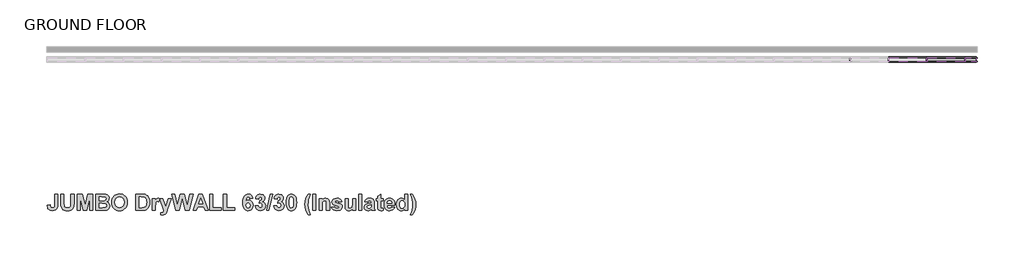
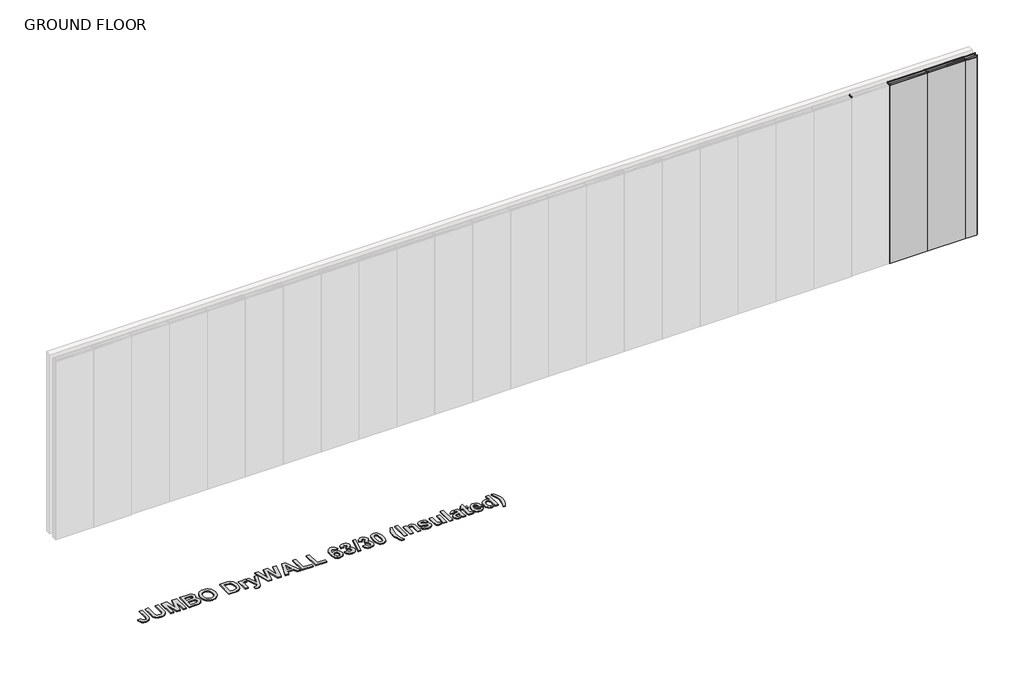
# One storey, part 2 of 2: 10 members, 3 plates, 1 proxy.
"""IFC4 building model written with IfcOpenShell, lengths in millimetres."""

from ifc_helpers import new_model, si_unit, origin, origin_with_axes, place, context, project, spatial, polyline, outline, extrude, transform, mapped, element, save
from components import rectangular_mullion_stud_mullion_63mm_b2ef130e, rectangular_mullion_stud_mullion_63mm_af775e70, rectangular_mullion_stud_mullion_63mm_c22ba0a2, rectangular_mullion_stud_mullion_63mm_ab3eab4e, rectangular_mullion_stud_mullion_63mm_06861ceb, rectangular_mullion_stud_mullion_63mm_08592bac, plate_2_layer_drywall_panels_2_layer_12mm_drywall_panels_e6e5b326, plate_2_layer_drywall_panels_2_layer_12mm_drywall_panels_b7f979b4

model = new_model("IFC4")

# Units and contexts
model_context = context("Model", 3, world=origin())
ifc_project = project(units=[si_unit("LENGTHUNIT", "METRE", prefix="MILLI")], contexts=[model_context])

# Site, building, storey
site = spatial("IfcSite", under=ifc_project)
building = spatial("IfcBuilding", under=site)
storey = spatial("IfcBuildingStorey", under=building, Name="GROUND FLOOR", Elevation=0.0)

# Proxy
placement = place(None, origin())
element("IfcBuildingElementProxy", 1, Name="600mm Arial", ObjectType="600mm Arial", at=placement, inside=storey, context=model_context, shape_type="SweptSolid", body=[
    extrude(outline(polyline([(61762.9500241, -21369.743976), (61811.5338051, -21369.743976), (61811.5338051, -21530.994051), (61810.1104521, -21558.9866592), (61805.8403932, -21579.7043522), (61795.149431, -21599.7261838), (61778.2589759, -21615.3830664), (61755.0741377, -21625.4888724), (61725.5000263, -21628.8574744), (61691.5293357, -21623.4566406), (61677.8651473, -21616.7055985), (61666.4150635, -21607.2541395), (61657.3530497, -21595.1892463), (61650.8530712, -21580.5979016), (61645.5392201, -21543.8358577), (61694.1230011, -21539.7872093), (61696.3529207, -21558.417318), (61701.1448757, -21570.6581534), (61712.5633294, -21580.9062947), (61728.726293, -21584.3223418), (61744.7073837, -21581.8710117), (61755.200658, -21574.5170215), (61761.0126826, -21559.4611102), (61762.9500241, -21533.9040171), (61762.9500241, -21369.743976)])), origin_with_axes(), (0.0, 0.0, 1.0), 15.0),
    extrude(outline(polyline([(61860.117586, -21369.743976), (61908.701367, -21369.743976), (61908.701367, -21507.3347619), (61910.7889513, -21549.8455702), (61916.8777389, -21563.8814119), (61927.9324469, -21574.8649522), (61943.9530752, -21581.9579944), (61964.9396238, -21584.3223418), (61985.9024499, -21582.0924222), (62000.9662687, -21575.4026633), (62010.6687913, -21565.4629151), (62015.547729, -21553.4830277), (62018.0148741, -21510.307988), (62018.0148741, -21369.743976), (62066.598655, -21369.743976), (62066.598655, -21503.539154), (62062.3602262, -21568.3807887), (62056.3346987, -21585.8326775), (62046.7349738, -21600.3587851), (62033.4266236, -21612.085632), (62016.2752205, -21621.1397383), (61994.2844173, -21626.9280404), (61966.457867, -21628.8574744), (61933.8630842, -21626.754075), (61910.2196101, -21620.4438769), (61893.0602995, -21610.7650768), (61879.9180071, -21598.5558714), (61870.682028, -21584.7493477), (61865.2416567, -21570.2785926), (61861.3986037, -21543.1716263), (61860.117586, -21505.6267383), (61860.117586, -21369.743976)])), origin_with_axes(), (0.0, 0.0, 1.0), 15.0),
    extrude(outline(polyline([(62115.182436, -21624.808826), (62115.182436, -21369.743976), (62198.432769, -21369.743976), (62238.6662126, -21543.7093374), (62278.8996562, -21369.743976), (62362.1499892, -21369.743976), (62362.1499892, -21624.808826), (62313.5662082, -21624.808826), (62311.541884, -21424.0211687), (62267.1332717, -21624.808826), (62210.2624136, -21624.808826), (62165.7905412, -21424.0211687), (62163.7662169, -21624.808826), (62115.182436, -21624.808826)])), origin_with_axes(), (0.0, 0.0, 1.0), 15.0),
    extrude(outline(polyline([(62410.7337701, -21369.743976), (62515.4292877, -21369.743976), (62561.7673339, -21372.2743812), (62589.0957107, -21382.8704532), (62600.1425112, -21392.2645828), (62609.1808025, -21404.3156378), (62615.20633, -21418.5096298), (62617.2148391, -21434.3325702), (62614.8188617, -21451.570956), (62607.6309292, -21467.3543588), (62596.3310883, -21480.5282812), (62581.5993851, -21489.9382257), (62600.2294939, -21499.0793147), (62613.9885724, -21512.9649136), (62622.4812451, -21530.6619353), (62625.312136, -21551.2372931), (62623.2799042, -21568.3254361), (62617.1832091, -21584.9233131), (62607.5676691, -21599.6312936), (62594.9789029, -21611.0497474), (62579.2666678, -21618.9493563), (62560.2807208, -21623.1008024), (62497.9062312, -21624.808826), (62410.7337701, -21624.808826), (62410.7337701, -21369.743976)]), holes=[polyline([(62459.3175511, -21414.2791085), (62459.3175511, -21470.9601863), (62496.3879881, -21470.9601863), (62537.5070735, -21470.1378046), (62550.4516779, -21467.1803934), (62560.3123509, -21461.3446463), (62566.5513814, -21452.9152338), (62568.6310582, -21442.1768265), (62566.836052, -21431.9049626), (62561.4510333, -21423.7364982), (62552.5392623, -21418.0193638), (62540.163999, -21415.1014902), (62491.8332586, -21414.2791085), (62459.3175511, -21414.2791085)]), polyline([(62459.3175511, -21515.4953188), (62459.3175511, -21580.2736934), (62510.6847778, -21580.2736934), (62548.7673769, -21578.7554503), (62560.0118653, -21575.3631257), (62568.9473589, -21569.1082802), (62574.783106, -21560.117434), (62576.728355, -21548.5171074), (62575.2259269, -21538.4587465), (62570.7186425, -21530.045149), (62553.3853665, -21518.974626), (62504.1689843, -21515.4953188), (62459.3175511, -21515.4953188)])]), origin_with_axes(), (0.0, 0.0, 1.0), 15.0),
    extrude(outline(polyline([(62657.7013233, -21498.8579042), (62660.5638442, -21463.0842999), (62669.1514071, -21433.5734486), (62679.2493055, -21415.1410278), (62692.4627655, -21398.6854861), (62707.9377752, -21385.2189856), (62724.8203227, -21375.7536884), (62750.0294851, -21368.2099178), (62778.844475, -21365.6953275), (62805.1369671, -21367.8758252), (62828.6618285, -21374.4173182), (62849.4190591, -21385.3198065), (62867.408659, -21400.58329), (62881.9387205, -21419.7293642), (62892.3173358, -21442.2796242), (62898.544505, -21468.23407), (62900.620228, -21497.5927016), (62898.56032, -21526.7516685), (62892.3805959, -21552.5499408), (62882.0810558, -21574.9875187), (62867.6616995, -21594.0644021), (62849.7907124, -21609.2863712), (62829.1362795, -21620.1592063), (62805.6984008, -21626.6829073), (62779.4770763, -21628.8574744), (62752.9789887, -21626.6927917), (62729.3434221, -21620.1987439), (62708.5703765, -21609.3753308), (62690.6598518, -21594.2225524), (62676.2404955, -21575.2741661), (62665.9409554, -21553.0639294), (62659.7612313, -21527.5918421), (62657.7013233, -21498.8579042)]), holes=[polyline([(62706.2851042, -21497.0866206), (62711.4487125, -21534.837104), (62717.9032227, -21549.8099864), (62726.9395371, -21562.1812958), (62750.3853234, -21578.7870803), (62779.4138162, -21584.3223418), (62808.3790489, -21578.8266179), (62831.6350547, -21562.3394461), (62840.5606639, -21549.9740673), (62846.936099, -21534.8608266), (62852.0364471, -21496.3907591), (62847.0705268, -21458.4979404), (62840.8631264, -21443.6792546), (62832.1727658, -21431.6123845), (62809.0511878, -21415.5759412), (62779.4138162, -21410.2304601), (62749.7131845, -21415.6392013), (62726.401826, -21431.865425), (62717.6007602, -21444.0548616), (62711.3142847, -21458.9882064), (62706.2851042, -21497.0866206)])]), origin_with_axes(), (0.0, 0.0, 1.0), 15.0),
    extrude(outline(polyline([(63038.2742741, -21369.743976), (63132.7216503, -21369.743976), (63160.8724088, -21370.9617335), (63181.4319515, -21374.6150061), (63202.339425, -21383.8114477), (63220.0206317, -21398.1161449), (63234.1671786, -21416.8727739), (63244.4706725, -21439.4250107), (63250.7571481, -21466.729665), (63252.8526399, -21499.7435461), (63250.8915758, -21529.0329869), (63245.0083836, -21554.0207389), (63233.3368894, -21579.1982712), (63217.5534866, -21599.0619525), (63201.7700838, -21610.6701866), (63181.2421711, -21619.4317148), (63161.2677846, -21623.4645482), (63135.5050961, -21624.808826), (63038.2742741, -21624.808826), (63038.2742741, -21369.743976)]), holes=[polyline([(63086.858055, -21414.2791085), (63086.858055, -21580.2736934), (63128.230181, -21580.2736934), (63161.7580506, -21577.8698084), (63184.1205071, -21567.4635168), (63192.1940814, -21557.7293641), (63198.6387073, -21543.2665165), (63202.861321, -21523.3712052), (63204.268859, -21497.3396611), (63202.861321, -21471.6718628), (63198.6387073, -21452.7412684), (63191.8935957, -21438.8872996), (63182.9185646, -21428.4493779), (63171.4605733, -21421.1428328), (63157.2665813, -21416.6829935), (63111.7825468, -21414.2791085), (63086.858055, -21414.2791085)])]), origin_with_axes(), (0.0, 0.0, 1.0), 15.0),
    extrude(outline(polyline([(63341.922905, -21624.808826), (63293.339124, -21624.808826), (63293.339124, -21438.570999), (63341.922905, -21438.570999), (63341.922905, -21464.5076529), (63361.3437653, -21440.3106526), (63380.9544061, -21434.5223506), (63396.1210226, -21437.0843859), (63410.749928, -21444.7704919), (63396.5796586, -21491.0136479), (63384.8765342, -21485.0830106), (63374.0590518, -21483.1061315), (63356.9471862, -21488.641393), (63350.7002482, -21496.3986666), (63345.9399233, -21508.5999645), (63341.922905, -21569.0766501), (63341.922905, -21624.808826)])), origin_with_axes(), (0.0, 0.0, 1.0), 15.0),
    extrude(outline(polyline([(63410.749928, -21438.570999), (63459.333709, -21438.570999), (63501.8445173, -21570.4051129), (63544.3553256, -21438.570999), (63592.9391066, -21438.570999), (63529.9320156, -21617.0278298), (63518.2288913, -21650.1761387), (63506.6839173, -21673.7721677), (63494.0635211, -21686.9935352), (63476.5088346, -21694.8694215), (63453.0076958, -21697.6844974), (63426.9445217, -21694.9010516), (63422.8958732, -21658.9060368), (63442.1902133, -21661.2466617), (63455.9571994, -21658.6767188), (63465.628092, -21650.9668903), (63477.2995863, -21624.808826), (63410.749928, -21438.570999)])), origin_with_axes(), (0.0, 0.0, 1.0), 15.0),
    extrude(outline(polyline([(64171.8958296, -21624.808826), (64120.8449035, -21624.808826), (64100.8547019, -21568.1277482), (64004.5095218, -21568.1277482), (63984.7723607, -21624.808826), (63933.0255732, -21624.808826), (64026.1444867, -21369.743976), (64077.8912742, -21369.743976), (64171.8958296, -21624.808826)]), holes=[polyline([(64085.2927096, -21523.5926156), (64052.4607014, -21430.4737021), (64020.0715141, -21523.5926156), (64085.2927096, -21523.5926156)])]), origin_with_axes(), (0.0, 0.0, 1.0), 15.0),
    extrude(outline(polyline([(63661.1967884, -21624.808826), (63596.987755, -21369.743976), (63646.8367386, -21369.743976), (63688.0823443, -21544.9745401), (63732.4276964, -21369.743976), (63797.7754122, -21369.743976), (63841.9309839, -21547.8845061), (63883.1765896, -21369.743976), (63933.0255732, -21369.743976), (63869.7654418, -21624.808826), (63812.2619823, -21624.808826), (63765.0066641, -21434.1427898), (63716.8024439, -21624.808826), (63661.1967884, -21624.808826)])), origin_with_axes(), (0.0, 0.0, 1.0), 15.0),
    extrude(outline(polyline([(64196.18772, -21624.808826), (64196.18772, -21369.743976), (64244.771501, -21369.743976), (64244.771501, -21580.2736934), (64374.3282502, -21580.2736934), (64374.3282502, -21624.808826), (64196.18772, -21624.808826)])), origin_with_axes(), (0.0, 0.0, 1.0), 15.0),
    extrude(outline(polyline([(64410.7660859, -21624.808826), (64410.7660859, -21369.743976), (64459.3498668, -21369.743976), (64459.3498668, -21580.2736934), (64588.906616, -21580.2736934), (64588.906616, -21624.808826), (64410.7660859, -21624.808826)])), origin_with_axes(), (0.0, 0.0, 1.0), 15.0),
    extrude(outline(polyline([(64872.3120049, -21437.4323166), (64823.728224, -21442.6196474), (64820.7549978, -21430.0229737), (64815.1248461, -21421.2060929), (64807.1224395, -21416.0108546), (64797.0324485, -21414.2791085), (64783.4315202, -21417.639803), (64772.1079567, -21427.7218864), (64763.8050645, -21448.5581922), (64759.26615, -21484.1815537), (64779.2879816, -21468.1925555), (64803.6747623, -21462.8628894), (64831.5013126, -21468.5563013), (64855.010359, -21485.6365368), (64871.0230797, -21511.715526), (64876.3606533, -21544.4051989), (64870.904467, -21578.8424329), (64864.0842341, -21593.232136), (64854.535908, -21605.7358963), (64842.8446449, -21615.8515867), (64829.5956012, -21623.0770799), (64798.4241714, -21628.8574744), (64780.8932075, -21626.9913005), (64764.9911919, -21621.3927789), (64750.7181248, -21612.0619095), (64738.074006, -21598.9986923), (64727.723067, -21581.6851851), (64720.3295391, -21559.6034455), (64715.8934224, -21532.7534734), (64714.4147168, -21501.135269), (64715.9586594, -21468.6828215), (64720.5904872, -21441.1014042), (64728.3102001, -21418.391017), (64739.1177982, -21400.55166), (64752.3925414, -21387.0732982), (64767.5136897, -21377.445897), (64784.4812431, -21371.6694562), (64803.2952015, -21369.743976), (64828.6150691, -21374.077295), (64849.1587968, -21387.077252), (64864.0249277, -21408.3326561), (64872.3120049, -21437.4323166)]), holes=[polyline([(64762.9984978, -21543.3297766), (64765.6237932, -21560.7500353), (64773.4996796, -21573.6630097), (64784.744168, -21581.6575088), (64797.4752694, -21584.3223418), (64809.3681741, -21582.1398673), (64819.1102344, -21575.5924437), (64825.6102129, -21564.0632847), (64827.7768724, -21546.9356041), (64825.444155, -21529.1832298), (64818.446003, -21516.9186718), (64807.9527287, -21509.7781844), (64795.1346446, -21507.398022), (64782.6961212, -21509.6753867), (64772.3293672, -21516.5074809), (64765.3312151, -21527.7677843), (64762.9984978, -21543.3297766)])]), origin_with_axes(), (0.0, 0.0, 1.0), 15.0),
    extrude(outline(polyline([(64908.7498406, -21553.5146578), (64957.3336216, -21547.8845061), (64961.0817844, -21563.5097586), (64968.2776243, -21574.9598424), (64978.1303898, -21581.981717), (64989.8493292, -21584.3223418), (65002.4222803, -21581.6416938), (65012.8127569, -21573.5997495), (65019.7871864, -21561.0188909), (65022.1119962, -21544.7214995), (65019.9848743, -21529.3018425), (65013.6035085, -21517.4563829), (65004.1540264, -21509.9126122), (64992.8225553, -21507.398022), (64973.5282152, -21511.0038495), (64977.766644, -21470.9601863), (64991.5968903, -21469.2205327), (65001.7106038, -21462.9894097), (65007.9021892, -21453.1208292), (65009.966051, -21440.4688029), (65008.4240852, -21429.7224881), (65003.7981881, -21421.3958733), (64996.6102557, -21416.0582997), (64987.382184, -21414.2791085), (64977.995962, -21416.3429703), (64970.0805381, -21422.5345557), (64964.3159586, -21432.6957143), (64961.38227, -21446.6682958), (64912.7984891, -21439.3933807), (64918.3574731, -21417.655618), (64926.1780069, -21400.7730704), (64936.9005991, -21387.8600961), (64951.1657588, -21378.0310532), (64968.1590116, -21371.8157453), (64987.0658834, -21369.743976), (65017.7154171, -21375.4848329), (65030.5018711, -21382.6609041), (65041.5961167, -21392.7074037), (65054.3114031, -21412.7292353), (65058.5498319, -21435.218212), (65056.2764209, -21451.1637189), (65049.456188, -21465.4091097), (65038.0891331, -21477.9543846), (65022.1752563, -21488.7995433), (65042.0389376, -21496.3512215), (65057.4744097, -21509.6437567), (65067.3904353, -21527.5068363), (65070.6957771, -21548.770148), (65064.8363075, -21579.5382944), (65047.2578984, -21605.4195957), (65034.821352, -21615.6736676), (65020.9495913, -21622.9980047), (64988.9004272, -21628.8574744), (64958.6383618, -21623.646421), (64934.0222632, -21608.0132611), (64916.8075999, -21583.9665036), (64908.7498406, -21553.5146578)])), origin_with_axes(), (0.0, 0.0, 1.0), 15.0),
    extrude(outline(polyline([(65086.0047289, -21624.808826), (65146.7344551, -21369.743976), (65184.0579327, -21369.743976), (65123.3282065, -21624.808826), (65086.0047289, -21624.808826)])), origin_with_axes(), (0.0, 0.0, 1.0), 15.0),
    extrude(outline(polyline([(65200.2525263, -21553.5146578), (65248.8363073, -21547.8845061), (65252.5844701, -21563.5097586), (65259.78031, -21574.9598424), (65269.6330755, -21581.981717), (65281.3520149, -21584.3223418), (65293.924966, -21581.6416938), (65304.3154426, -21573.5997495), (65311.2898721, -21561.0188909), (65313.6146819, -21544.7214995), (65311.48756, -21529.3018425), (65305.1061942, -21517.4563829), (65295.6567121, -21509.9126122), (65284.325241, -21507.398022), (65265.0309009, -21511.0038495), (65269.2693297, -21470.9601863), (65283.099576, -21469.2205327), (65293.2132895, -21462.9894097), (65299.4048749, -21453.1208292), (65301.4687367, -21440.4688029), (65299.9267709, -21429.7224881), (65295.3008738, -21421.3958733), (65288.1129414, -21416.0582997), (65278.8848697, -21414.2791085), (65269.4986477, -21416.3429703), (65261.5832238, -21422.5345557), (65255.8186443, -21432.6957143), (65252.8849557, -21446.6682958), (65204.3011748, -21439.3933807), (65209.8601588, -21417.655618), (65217.6806926, -21400.7730704), (65228.4032848, -21387.8600961), (65242.6684445, -21378.0310532), (65259.6616973, -21371.8157453), (65278.5685691, -21369.743976), (65309.2181028, -21375.4848329), (65322.0045568, -21382.6609041), (65333.0988024, -21392.7074037), (65345.8140888, -21412.7292353), (65350.0525176, -21435.218212), (65347.7791066, -21451.1637189), (65340.9588737, -21465.4091097), (65329.5918188, -21477.9543846), (65313.677942, -21488.7995433), (65333.5416233, -21496.3512215), (65348.9770954, -21509.6437567), (65358.893121, -21527.5068363), (65362.1984628, -21548.770148), (65356.3389932, -21579.5382944), (65338.7605841, -21605.4195957), (65326.3240377, -21615.6736676), (65312.452277, -21622.9980047), (65280.4031129, -21628.8574744), (65250.1410475, -21623.646421), (65225.5249489, -21608.0132611), (65208.3102856, -21583.9665036), (65200.2525263, -21553.5146578)])), origin_with_axes(), (0.0, 0.0, 1.0), 15.0),
    extrude(outline(polyline([(65475.5606184, -21369.743976), (65492.6922527, -21371.3887394), (65507.8391005, -21376.3230296), (65521.0011616, -21384.5468467), (65532.178436, -21396.0601906), (65542.8338144, -21414.1881721), (65550.444799, -21437.4481316), (65555.0113897, -21465.8400694), (65556.5335866, -21499.3639853), (65555.0034822, -21532.8562711), (65550.4131689, -21561.2798389), (65542.7626468, -21584.6346887), (65532.0519158, -21602.9208205), (65520.9299939, -21614.2681065), (65507.8074704, -21622.3733109), (65492.6843452, -21627.2364335), (65475.5606184, -21628.8574744), (65458.2530418, -21627.0782832), (65442.7048876, -21621.7407096), (65428.9161558, -21612.8447536), (65416.8868465, -21600.3904152), (65407.1309481, -21583.3694861), (65400.1624492, -21560.7737579), (65395.9813499, -21532.6032306), (65394.5876501, -21498.8579042), (65396.1177546, -21465.5316762), (65400.7080679, -21437.2267212), (65408.35859, -21413.9430391), (65419.069321, -21395.6806299), (65430.1912429, -21384.3333438), (65443.3137664, -21376.2281394), (65458.4368916, -21371.3650168), (65475.5606184, -21369.743976)]), holes=[polyline([(65475.5606184, -21414.2791085), (65459.3660247, -21419.6245896), (65453.0400116, -21427.0971926), (65448.3587619, -21438.8240395), (65444.4682638, -21462.9735947), (65443.1714311, -21499.3639853), (65444.3259285, -21535.2720174), (65447.7894207, -21557.8479768), (65453.016289, -21571.1009744), (65459.4609149, -21579.0401208), (65475.5606184, -21584.3223418), (65491.755212, -21578.9768607), (65498.0812252, -21571.5042577), (65502.7624749, -21559.7774108), (65506.652973, -21535.7543759), (65507.9498057, -21499.3639853), (65506.7953083, -21463.4954908), (65503.3318161, -21440.9116238), (65498.1049477, -21427.6190887), (65491.6603218, -21419.6245896), (65475.5606184, -21414.2791085)])]), origin_with_axes(), (0.0, 0.0, 1.0), 15.0),
    extrude(outline(polyline([(65771.1119525, -21693.635849), (65738.7227652, -21693.635849), (65716.0519156, -21653.963839), (65699.5331138, -21612.7577709), (65689.4510303, -21571.4568126), (65686.0903358, -21531.5001321), (65690.2022444, -21484.1024786), (65702.53797, -21439.3301206), (65718.7325637, -21403.0504352), (65738.7227652, -21369.743976), (65771.1119525, -21369.743976), (65753.5493585, -21416.9834791), (65742.486743, -21456.6001364), (65736.6272734, -21493.4807931), (65734.6741168, -21532.5122942), (65739.3553665, -21589.1617419), (65752.1971732, -21644.2296863), (65771.1119525, -21693.635849)])), origin_with_axes(), (0.0, 0.0, 1.0), 15.0),
    extrude(outline(polyline([(65811.5984366, -21624.808826), (65811.5984366, -21369.743976), (65860.1822176, -21369.743976), (65860.1822176, -21624.808826), (65811.5984366, -21624.808826)])), origin_with_axes(), (0.0, 0.0, 1.0), 15.0),
    extrude(outline(polyline([(66074.7605834, -21624.808826), (66026.1768025, -21624.808826), (66026.1768025, -21529.0962471), (66023.1403162, -21489.7484453), (66013.2084755, -21475.8944765), (65996.6975812, -21470.9601863), (65984.9391043, -21472.7235624), (65974.461645, -21478.0136909), (65966.1745678, -21486.221693), (65960.987237, -21496.7386898), (65957.3497795, -21539.8504694), (65957.3497795, -21624.808826), (65908.7659985, -21624.808826), (65908.7659985, -21438.570999), (65957.3497795, -21438.570999), (65957.3497795, -21465.3932947), (65969.6420138, -21451.8872566), (65983.4287687, -21442.2400866), (65998.7100442, -21436.4517846), (66015.4858403, -21434.5223506), (66043.6998589, -21440.4055428), (66063.0574591, -21455.3981939), (66072.1985481, -21476.0526269), (66074.7605834, -21509.1693057), (66074.7605834, -21624.808826)])), origin_with_axes(), (0.0, 0.0, 1.0), 15.0),
    extrude(outline(polyline([(66103.1011223, -21572.1763966), (66151.6849033, -21564.0790998), (66156.3108004, -21576.3199352), (66164.1155191, -21585.2079837), (66175.367915, -21590.6167249), (66190.3368436, -21592.4196387), (66206.5788823, -21590.6958001), (66218.2345616, -21585.5242843), (66222.9790714, -21579.8941326), (66224.5605747, -21572.6192175), (66221.2077877, -21563.5097586), (66205.3294948, -21557.1204853), (66158.4062923, -21544.6898695), (66132.5170835, -21533.3346759), (66116.5280852, -21515.3529835), (66111.1984192, -21491.519729), (66115.7689637, -21469.3312379), (66129.4805971, -21450.9699847), (66152.8077706, -21438.6342591), (66186.2249351, -21434.5223506), (66218.0922263, -21437.8435075), (66240.565388, -21447.8069782), (66255.5738542, -21464.2862424), (66265.0470588, -21487.1547799), (66216.4632779, -21495.2520767), (66212.8890805, -21484.8616002), (66207.1007784, -21477.2229393), (66198.7504411, -21472.5258745), (66187.4901377, -21470.9601863), (66173.6519839, -21472.288649), (66164.4001897, -21476.2740373), (66159.7822001, -21486.1426178), (66164.4001897, -21494.9357761), (66207.385449, -21508.5367044), (66238.6122314, -21518.3578398), (66258.7210457, -21530.2349294), (66269.5385282, -21545.907627), (66273.1443557, -21566.7360253), (66267.9174873, -21590.434852), (66252.2368822, -21610.5436663), (66240.5278273, -21618.5559573), (66226.3081358, -21624.2790223), (66190.3368436, -21628.8574744), (66157.0224769, -21625.0460514), (66131.4732913, -21613.6117827), (66113.5469515, -21595.6300903), (66103.1011223, -21572.1763966)])), origin_with_axes(), (0.0, 0.0, 1.0), 15.0),
    extrude(outline(polyline([(66435.0902922, -21624.808826), (66435.0902922, -21597.4804492), (66423.9011564, -21610.5357588), (66409.6913494, -21620.4755069), (66393.5204783, -21626.7619825), (66376.4481503, -21628.8574744), (66359.5735102, -21626.8015201), (66344.5017839, -21620.6336573), (66332.2925786, -21610.7413542), (66324.0055013, -21597.5120792), (66319.2609915, -21579.7597048), (66317.6794882, -21556.2981036), (66317.6794882, -21438.570999), (66366.2632691, -21438.570999), (66366.2632691, -21524.6680379), (66368.8885646, -21573.0936685), (66378.5041046, -21587.2006778), (66396.2485715, -21592.4196387), (66407.8805281, -21590.679985), (66418.2314671, -21585.4610242), (66426.4078391, -21577.6563055), (66431.5160947, -21568.1593782), (66435.0902922, -21517.5829032), (66435.0902922, -21438.570999), (66483.6740731, -21438.570999), (66483.6740731, -21624.808826), (66435.0902922, -21624.808826)])), origin_with_axes(), (0.0, 0.0, 1.0), 15.0),
    extrude(outline(polyline([(66532.2578541, -21624.808826), (66532.2578541, -21369.743976), (66580.841635, -21369.743976), (66580.841635, -21624.808826), (66532.2578541, -21624.808826)])), origin_with_axes(), (0.0, 0.0, 1.0), 15.0),
    extrude(outline(polyline([(66669.9119001, -21495.2520767), (66625.3767675, -21487.1547799), (66635.0318451, -21463.8117914), (66649.8268084, -21447.4274174), (66671.3906057, -21437.7486173), (66701.3521854, -21434.5223506), (66728.4433367, -21436.4755071), (66747.5953415, -21442.3349768), (66760.5320384, -21451.1913952), (66768.9772659, -21462.1353979), (66773.6268856, -21479.1444658), (66775.1767588, -21506.1960795), (66775.1767588, -21563.6362788), (66777.7387941, -21599.821074), (66787.3227041, -21624.808826), (66738.7389231, -21624.808826), (66734.1841936, -21609.3733539), (66732.4761701, -21603.2371211), (66706.4762561, -21622.436571), (66692.1636513, -21627.2522485), (66676.9337747, -21628.8574744), (66652.1595257, -21624.9590688), (66633.2526539, -21613.263852), (66621.2727665, -21595.6221828), (66617.2794707, -21573.8844201), (66619.0586619, -21558.9866592), (66624.3962355, -21545.7969218), (66632.9442608, -21534.9003641), (66644.354807, -21526.8821425), (66681.3619839, -21515.4320587), (66726.5929779, -21503.3493736), (66726.5929779, -21498.2253029), (66725.0826422, -21485.6049067), (66720.5516353, -21477.2229393), (66711.8454597, -21472.5258745), (66697.8096181, -21470.9601863), (66687.7354421, -21472.3044641), (66680.1600414, -21476.3372974), (66669.9119001, -21495.2520767)]), holes=[polyline([(66726.5929779, -21539.7872093), (66699.2013409, -21546.5244133), (66674.6564099, -21554.2105193), (66668.0615412, -21561.1216886), (66665.8632517, -21569.7092515), (66667.6266278, -21578.3205369), (66672.9167563, -21585.6824347), (66680.9270705, -21590.7353377), (66690.8510036, -21592.4196387), (66702.7597233, -21590.4585746), (66714.0674718, -21584.5753824), (66724.8216942, -21570.0255521), (66726.5929779, -21548.5803676), (66726.5929779, -21539.7872093)])]), origin_with_axes(), (0.0, 0.0, 1.0), 15.0),
    extrude(outline(polyline([(66912.8308048, -21438.570999), (66912.8308048, -21475.0088347), (66876.3929691, -21475.0088347), (66876.3929691, -21554.9063807), (66877.5000214, -21583.1520294), (66882.5292019, -21589.7943432), (66892.0814817, -21592.4196387), (66914.855129, -21587.7383889), (66916.8794533, -21622.2784207), (66898.1386393, -21627.2127109), (66877.0888306, -21628.8574744), (66852.5438996, -21624.3027449), (66836.5074563, -21612.5363605), (66829.3906915, -21592.9889798), (66827.8091882, -21557.6265664), (66827.8091882, -21475.0088347), (66803.5172977, -21475.0088347), (66803.5172977, -21438.570999), (66827.8091882, -21438.570999), (66827.8091882, -21402.1331633), (66876.3929691, -21373.7926244), (66876.3929691, -21438.570999), (66912.8308048, -21438.570999)])), origin_with_axes(), (0.0, 0.0, 1.0), 15.0),
    extrude(outline(polyline([(67046.4362025, -21568.1277482), (67095.0199834, -21576.225045), (67083.1903388, -21598.8958946), (67066.0468432, -21615.4146964), (67043.7634619, -21625.4967799), (67016.5141603, -21628.8574744), (66994.5114958, -21626.8766415), (66975.5690402, -21620.9341429), (66959.6867934, -21611.0299786), (66946.8647556, -21597.1641485), (66933.4852378, -21568.4598639), (66929.0253985, -21533.0816354), (66930.5041041, -21511.241075), (66934.9402208, -21491.8992898), (66942.3337486, -21475.0562798), (66952.6846877, -21460.712045), (66965.2971764, -21449.2540537), (66979.4753533, -21441.0697742), (66995.2192185, -21436.1592065), (67012.528772, -21434.5223506), (67031.7638057, -21436.2026978), (67048.8559025, -21441.2437395), (67063.8050623, -21449.6454757), (67076.6112852, -21461.4079064), (67086.8159351, -21476.6417368), (67093.9603762, -21495.4576722), (67098.0446084, -21517.8557125), (67099.0686318, -21543.8358577), (66977.6091794, -21543.8358577), (66980.7247409, -21564.3005102), (66989.0592632, -21579.6410921), (67001.3475438, -21589.225002), (67016.3243799, -21592.4196387), (67026.5250761, -21590.9804707), (67034.9861187, -21586.6629667), (67041.6442475, -21579.1508261), (67046.4362025, -21568.1277482)]), holes=[polyline([(67050.4848509, -21515.4953188), (67047.5274397, -21496.2879614), (67039.6673684, -21482.3153799), (67028.2489147, -21473.7989847), (67014.6163563, -21470.9601863), (67000.2246764, -21473.9492275), (66988.5531822, -21482.9163511), (66980.8987063, -21497.0708055), (66978.4315611, -21515.4953188), (67050.4848509, -21515.4953188)])]), origin_with_axes(), (0.0, 0.0, 1.0), 15.0),
    extrude(outline(polyline([(67301.5010524, -21624.808826), (67252.9172715, -21624.808826), (67252.9172715, -21597.9865302), (67241.0639044, -21611.611181), (67227.2652882, -21621.2346285), (67212.4386949, -21626.9517629), (67197.5013963, -21628.8574744), (67182.7716701, -21627.244341), (67169.1371349, -21622.404941), (67156.5977907, -21614.3392742), (67145.1536376, -21603.0473407), (67135.6191496, -21588.86521), (67128.8088011, -21572.1289515), (67123.3605223, -21530.994051), (67128.8008936, -21489.4005146), (67135.6013577, -21472.8500827), (67145.1220075, -21459.1305417), (67156.7223341, -21448.3644581), (67169.7618287, -21440.6743983), (67184.2404913, -21436.0603625), (67200.1583219, -21434.5223506), (67214.890025, -21436.1157151), (67228.593751, -21440.8958088), (67252.9172715, -21460.0161835), (67252.9172715, -21369.743976), (67301.5010524, -21369.743976), (67301.5010524, -21624.808826)]), holes=[polyline([(67171.9443032, -21528.1473451), (67173.9686274, -21554.59008), (67180.0416001, -21572.5559574), (67194.0695342, -21587.4537183), (67212.747088, -21592.4196387), (67228.2458202, -21588.6951984), (67241.2141472, -21577.5218777), (67249.9914904, -21558.9471216), (67252.9172715, -21533.0183752), (67250.0784731, -21504.6224837), (67241.5620779, -21485.4783864), (67228.6016585, -21474.5897363), (67212.4307874, -21470.9601863), (67196.6157545, -21474.5501987), (67183.5841674, -21485.3202361), (67174.8542693, -21503.2070383), (67171.9443032, -21528.1473451)])]), origin_with_axes(), (0.0, 0.0, 1.0), 15.0),
    extrude(outline(polyline([(67341.9875366, -21693.635849), (67359.985044, -21647.6457334), (67369.6638441, -21610.7334467), (67376.2745278, -21571.0377142), (67378.4253723, -21532.5122942), (67376.4801232, -21493.4807931), (67370.6443761, -21456.6001364), (67359.5896681, -21416.9834791), (67341.9875366, -21369.743976), (67374.3767239, -21369.743976), (67396.5731225, -21407.0832685), (67413.1868145, -21446.6050357), (67423.5535686, -21487.5027106), (67427.0091532, -21528.9697268), (67424.2415225, -21565.4708227), (67415.9386302, -21604.5023238), (67399.2221405, -21649.369572), (67374.3767239, -21693.635849), (67341.9875366, -21693.635849)])), origin_with_axes(), (0.0, 0.0, 1.0), 15.0),
])

# Members
rectangular_mullion_stud_mullion_63mm_shape = rectangular_mullion_stud_mullion_63mm_b2ef130e(model_context)
element("IfcMember", 2, ObjectType="Rectangular Mullion : Stud Mullion - 63mm", at=placement, inside=storey, context=model_context, shape_type="MappedRepresentation", body=[
    mapped(rectangular_mullion_stud_mullion_63mm_shape, transform((76216.5186508, -19259.4010443, 3000.0), x_axis=(0.0, 0.0, 1.0), y_axis=(0.0, -1.0, 0.0), z_axis=(1.0, 0.0, 0.0))),
])
rectangular_mullion_stud_mullion_63mm_2_shape = rectangular_mullion_stud_mullion_63mm_af775e70(model_context)
element("IfcMember", 3, ObjectType="Rectangular Mullion : Stud Mullion - 63mm", at=placement, inside=storey, context=model_context, shape_type="MappedRepresentation", body=[
    mapped(rectangular_mullion_stud_mullion_63mm_2_shape, transform((75454.5186511, -19259.4010443, 0.0), x_axis=(0.0, 0.0, -1.0), y_axis=(0.0, -1.0, 0.0), z_axis=(-1.0, 0.0, 0.0))),
])
rectangular_mullion_stud_mullion_63mm_3_shape = rectangular_mullion_stud_mullion_63mm_c22ba0a2(model_context)
element("IfcMember", 4, ObjectType="Rectangular Mullion : Stud Mullion - 63mm", at=placement, inside=storey, context=model_context, shape_type="MappedRepresentation", body=[
    mapped(rectangular_mullion_stud_mullion_63mm_3_shape, transform((76235.5186508, -19259.4010443, 0.0), x_axis=(1.0, 0.0, 0.0), y_axis=(0.0, -1.0, 0.0), z_axis=(0.0, 0.0, -1.0))),
])
rectangular_mullion_stud_mullion_63mm_4_shape = rectangular_mullion_stud_mullion_63mm_ab3eab4e(model_context)
element("IfcMember", 5, ObjectType="Rectangular Mullion : Stud Mullion - 63mm", at=placement, inside=storey, context=model_context, shape_type="MappedRepresentation", body=[
    mapped(rectangular_mullion_stud_mullion_63mm_4_shape, transform((75435.5186511, -19259.4010443, 3000.0), x_axis=(0.0, 0.0, 1.0), y_axis=(0.0, -1.0, 0.0), z_axis=(1.0, 0.0, 0.0))),
])
element("IfcMember", 6, ObjectType="Rectangular Mullion : Stud Mullion - 63mm", at=placement, inside=storey, context=model_context, shape_type="MappedRepresentation", body=[
    mapped(rectangular_mullion_stud_mullion_63mm_4_shape, transform((76035.5186511, -19259.4010443, 3000.0), x_axis=(0.0, 0.0, 1.0), y_axis=(0.0, -1.0, 0.0), z_axis=(1.0, 0.0, 0.0))),
])
rectangular_mullion_stud_mullion_63mm_5_shape = rectangular_mullion_stud_mullion_63mm_06861ceb(model_context)
element("IfcMember", 7, ObjectType="Rectangular Mullion : Stud Mullion - 63mm", at=placement, inside=storey, context=model_context, shape_type="MappedRepresentation", body=[
    mapped(rectangular_mullion_stud_mullion_63mm_5_shape, transform((76054.5186511, -19259.4010443, 0.0), x_axis=(0.0, 0.0, -1.0), y_axis=(0.0, -1.0, 0.0), z_axis=(-1.0, 0.0, 0.0))),
])
rectangular_mullion_stud_mullion_63mm_6_shape = rectangular_mullion_stud_mullion_63mm_08592bac(model_context)
element("IfcMember", 8, ObjectType="Rectangular Mullion : Stud Mullion - 63mm", at=placement, inside=storey, context=model_context, shape_type="MappedRepresentation", body=[
    mapped(rectangular_mullion_stud_mullion_63mm_6_shape, transform((74245.0186511, -19259.4010443, 0.0), x_axis=(1.0, 0.0, 0.0), y_axis=(0.0, -1.0, 0.0), z_axis=(0.0, 0.0, -1.0))),
])
element("IfcMember", 9, ObjectType="Rectangular Mullion : Stud Mullion - 63mm", at=placement, inside=storey, context=model_context, shape_type="MappedRepresentation", body=[
    mapped(rectangular_mullion_stud_mullion_63mm_6_shape, transform((74845.0186511, -19259.4010443, 0.0), x_axis=(1.0, 0.0, 0.0), y_axis=(0.0, -1.0, 0.0), z_axis=(0.0, 0.0, -1.0))),
])
element("IfcMember", 10, ObjectType="Rectangular Mullion : Stud Mullion - 63mm", at=placement, inside=storey, context=model_context, shape_type="MappedRepresentation", body=[
    mapped(rectangular_mullion_stud_mullion_63mm_6_shape, transform((75445.0186511, -19259.4010443, 0.0), x_axis=(1.0, 0.0, 0.0), y_axis=(0.0, -1.0, 0.0), z_axis=(0.0, 0.0, -1.0))),
])
element("IfcMember", 11, ObjectType="Rectangular Mullion : Stud Mullion - 63mm", at=placement, inside=storey, context=model_context, shape_type="MappedRepresentation", body=[
    mapped(rectangular_mullion_stud_mullion_63mm_6_shape, transform((76045.0186511, -19259.4010443, 0.0), x_axis=(1.0, 0.0, 0.0), y_axis=(0.0, -1.0, 0.0), z_axis=(0.0, 0.0, -1.0))),
])

# Plates
plate_2_layer_drywall_panels_2_layer_12mm_drywall_panels_shape = plate_2_layer_drywall_panels_2_layer_12mm_drywall_panels_e6e5b326(model_context)
element("IfcPlate", 12, ObjectType="2 Layer - Drywall Panels : 2 Layer - 12mm Drywall Panels 89mm", at=placement, inside=storey, context=model_context, shape_type="MappedRepresentation", body=[
    mapped(plate_2_layer_drywall_panels_2_layer_12mm_drywall_panels_shape, transform((75136.3186511, -19259.4010443, 1.6), x_axis=(1.0, 0.0, 0.0), y_axis=(0.0, 1.0, 0.0), z_axis=(0.0, 0.0, 1.0))),
])
element("IfcPlate", 13, ObjectType="2 Layer - Drywall Panels : 2 Layer - 12mm Drywall Panels 89mm", at=placement, inside=storey, context=model_context, shape_type="MappedRepresentation", body=[
    mapped(plate_2_layer_drywall_panels_2_layer_12mm_drywall_panels_shape, transform((75736.3186511, -19259.4010443, 1.6), x_axis=(1.0, 0.0, 0.0), y_axis=(0.0, 1.0, 0.0), z_axis=(0.0, 0.0, 1.0))),
])
plate_2_layer_drywall_panels_2_layer_12mm_drywall_panels_2_shape = plate_2_layer_drywall_panels_2_layer_12mm_drywall_panels_b7f979b4(model_context)
element("IfcPlate", 14, ObjectType="2 Layer - Drywall Panels : 2 Layer - 12mm Drywall Panels 89mm", at=placement, inside=storey, context=model_context, shape_type="MappedRepresentation", body=[
    mapped(plate_2_layer_drywall_panels_2_layer_12mm_drywall_panels_2_shape, transform((76126.818651, -19259.4010443, 1.6), x_axis=(1.0, 0.0, 0.0), y_axis=(0.0, 1.0, 0.0), z_axis=(0.0, 0.0, 1.0))),
])

save(model, "model.ifc")
